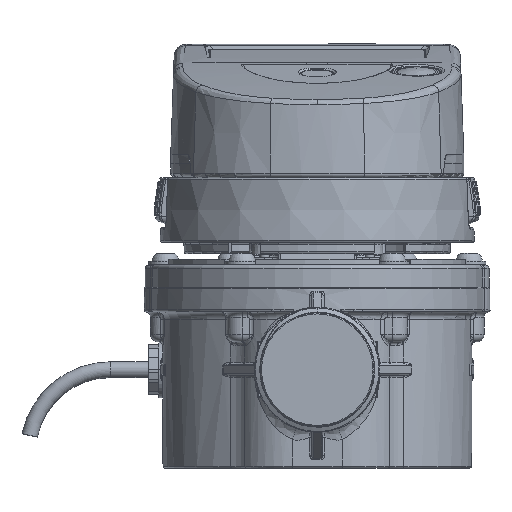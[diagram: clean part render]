
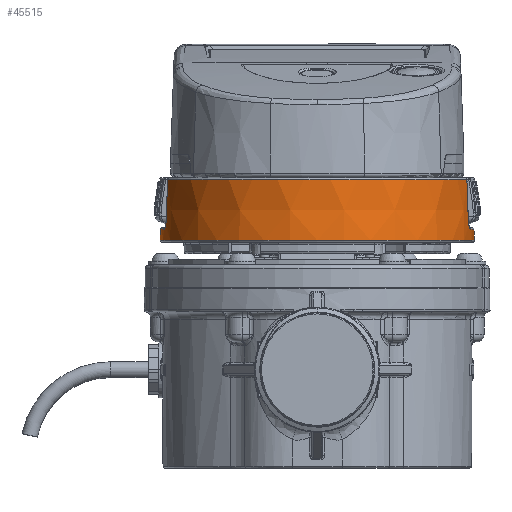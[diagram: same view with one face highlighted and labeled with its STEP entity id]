
A CAD part, front view. The second image highlights one B-rep face of the part: STEP entity #45515.
In plain terms, the highlighted conical face has half-angle 1.5 degrees and reference radius 41.35 mm.
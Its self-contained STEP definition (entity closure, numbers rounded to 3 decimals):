
#530=CONICAL_SURFACE('',#48613,41.35,0.026);
#1780=CIRCLE('',#48480,41.786);
#1826=CIRCLE('',#48573,41.71);
#1828=CIRCLE('',#48578,41.363);
#1831=CIRCLE('',#48583,41.71);
#5016=LINE('',#77248,#6605);
#5017=LINE('',#77249,#6606);
#6605=VECTOR('',#54893,1000.);
#6606=VECTOR('',#54894,1000.);
#12458=ORIENTED_EDGE('',*,*,#21912,.F.);
#12459=ORIENTED_EDGE('',*,*,#21911,.F.);
#12460=ORIENTED_EDGE('',*,*,#21966,.T.);
#12461=ORIENTED_EDGE('',*,*,#21799,.F.);
#12462=ORIENTED_EDGE('',*,*,#21967,.T.);
#12463=ORIENTED_EDGE('',*,*,#21925,.F.);
#12464=ORIENTED_EDGE('',*,*,#21922,.F.);
#12465=ORIENTED_EDGE('',*,*,#21921,.F.);
#12466=ORIENTED_EDGE('',*,*,#21917,.F.);
#12467=ORIENTED_EDGE('',*,*,#21914,.F.);
#21799=EDGE_CURVE('',#26867,#26868,#1780,.F.);
#21911=EDGE_CURVE('',#26932,#26931,#1826,.T.);
#21912=EDGE_CURVE('',#26931,#26933,#29961,.F.);
#21914=EDGE_CURVE('',#26933,#26934,#29963,.T.);
#21917=EDGE_CURVE('',#26934,#26935,#1828,.T.);
#21921=EDGE_CURVE('',#26935,#26936,#29967,.F.);
#21922=EDGE_CURVE('',#26936,#26937,#29968,.F.);
#21925=EDGE_CURVE('',#26937,#26938,#1831,.T.);
#21966=EDGE_CURVE('',#26932,#26868,#5016,.T.);
#21967=EDGE_CURVE('',#26867,#26938,#5017,.F.);
#26867=VERTEX_POINT('',#75815);
#26868=VERTEX_POINT('',#75817);
#26931=VERTEX_POINT('',#76389);
#26932=VERTEX_POINT('',#76391);
#26933=VERTEX_POINT('',#76548);
#26934=VERTEX_POINT('',#76559);
#26935=VERTEX_POINT('',#76569);
#26936=VERTEX_POINT('',#76594);
#26937=VERTEX_POINT('',#76754);
#26938=VERTEX_POINT('',#76761);
#29961=B_SPLINE_CURVE_WITH_KNOTS('',3,(#76543,#76544,#76545,#76546,#76547),
 .UNSPECIFIED.,.F.,.F.,(4,1,4),(0.,0.5,1.),
 .UNSPECIFIED.);
#29963=B_SPLINE_CURVE_WITH_KNOTS('',3,(#76555,#76556,#76557,#76558),
 .UNSPECIFIED.,.F.,.F.,(4,4),(0.,1.),.UNSPECIFIED.);
#29967=B_SPLINE_CURVE_WITH_KNOTS('',3,(#76595,#76596,#76597,#76598),
 .UNSPECIFIED.,.F.,.F.,(4,4),(0.,1.),.UNSPECIFIED.);
#29968=B_SPLINE_CURVE_WITH_KNOTS('',3,(#76749,#76750,#76751,#76752,#76753),
 .UNSPECIFIED.,.F.,.F.,(4,1,4),(0.,0.5,1.),.UNSPECIFIED.);
#31611=EDGE_LOOP('',(#12458,#12459,#12460,#12461,#12462,#12463,#12464,#12465,
#12466,#12467));
#34282=FACE_BOUND('',#31611,.T.);
#45515=ADVANCED_FACE('',(#34282),#530,.T.);
#48480=AXIS2_PLACEMENT_3D('',#75816,#54606,#54607);
#48573=AXIS2_PLACEMENT_3D('',#76392,#54800,#54801);
#48578=AXIS2_PLACEMENT_3D('',#76568,#54810,#54811);
#48583=AXIS2_PLACEMENT_3D('',#76762,#54820,#54821);
#48613=AXIS2_PLACEMENT_3D('',#77247,#54891,#54892);
#54606=DIRECTION('',(0.,0.,1.));
#54607=DIRECTION('',(1.,0.,0.));
#54800=DIRECTION('',(0.,0.,1.));
#54801=DIRECTION('',(1.,0.,0.));
#54810=DIRECTION('',(0.,0.,1.));
#54811=DIRECTION('',(1.,0.,0.));
#54820=DIRECTION('',(0.,0.,1.));
#54821=DIRECTION('',(1.,0.,0.));
#54891=DIRECTION('',(0.,0.,-1.));
#54892=DIRECTION('',(1.,0.,0.));
#54893=DIRECTION('',(-0.026,0.,-1.));
#54894=DIRECTION('',(0.026,0.,-1.));
#75815=CARTESIAN_POINT('',(41.783,-7.36,0.513));
#75816=CARTESIAN_POINT('',(0.,-6.85,0.513));
#75817=CARTESIAN_POINT('',(-41.783,-7.36,0.513));
#76389=CARTESIAN_POINT('',(-40.865,-15.202,3.413));
#76391=CARTESIAN_POINT('',(-41.707,-7.359,3.413));
#76392=CARTESIAN_POINT('',(0.,-6.85,3.413));
#76543=CARTESIAN_POINT('',(-40.199,-17.731,5.847));
#76544=CARTESIAN_POINT('',(-40.222,-17.714,5.185));
#76545=CARTESIAN_POINT('',(-40.421,-17.123,3.918));
#76546=CARTESIAN_POINT('',(-40.732,-15.854,3.413));
#76547=CARTESIAN_POINT('',(-40.865,-15.202,3.413));
#76548=CARTESIAN_POINT('',(-40.199,-17.731,5.847));
#76555=CARTESIAN_POINT('',(-40.2,-17.732,5.848));
#76556=CARTESIAN_POINT('',(-40.075,-17.827,9.453));
#76557=CARTESIAN_POINT('',(-39.951,-17.923,13.058));
#76558=CARTESIAN_POINT('',(-39.827,-18.019,16.663));
#76559=CARTESIAN_POINT('',(-39.827,-18.019,16.663));
#76568=CARTESIAN_POINT('',(0.,-6.85,16.663));
#76569=CARTESIAN_POINT('',(39.826,-18.019,16.663));
#76594=CARTESIAN_POINT('',(40.199,-17.731,5.848));
#76595=CARTESIAN_POINT('',(40.199,-17.731,5.848));
#76596=CARTESIAN_POINT('',(40.075,-17.828,9.453));
#76597=CARTESIAN_POINT('',(39.951,-17.924,13.058));
#76598=CARTESIAN_POINT('',(39.826,-18.019,16.663));
#76749=CARTESIAN_POINT('',(40.865,-15.202,3.413));
#76750=CARTESIAN_POINT('',(40.732,-15.853,3.413));
#76751=CARTESIAN_POINT('',(40.421,-17.121,3.916));
#76752=CARTESIAN_POINT('',(40.222,-17.714,5.184));
#76753=CARTESIAN_POINT('',(40.199,-17.731,5.848));
#76754=CARTESIAN_POINT('',(40.865,-15.202,3.413));
#76761=CARTESIAN_POINT('',(41.707,-7.359,3.413));
#76762=CARTESIAN_POINT('',(0.,-6.85,3.413));
#77247=CARTESIAN_POINT('',(0.,-6.85,17.15));
#77248=CARTESIAN_POINT('',(-39.847,-7.337,74.433));
#77249=CARTESIAN_POINT('',(39.847,-7.337,74.433));
